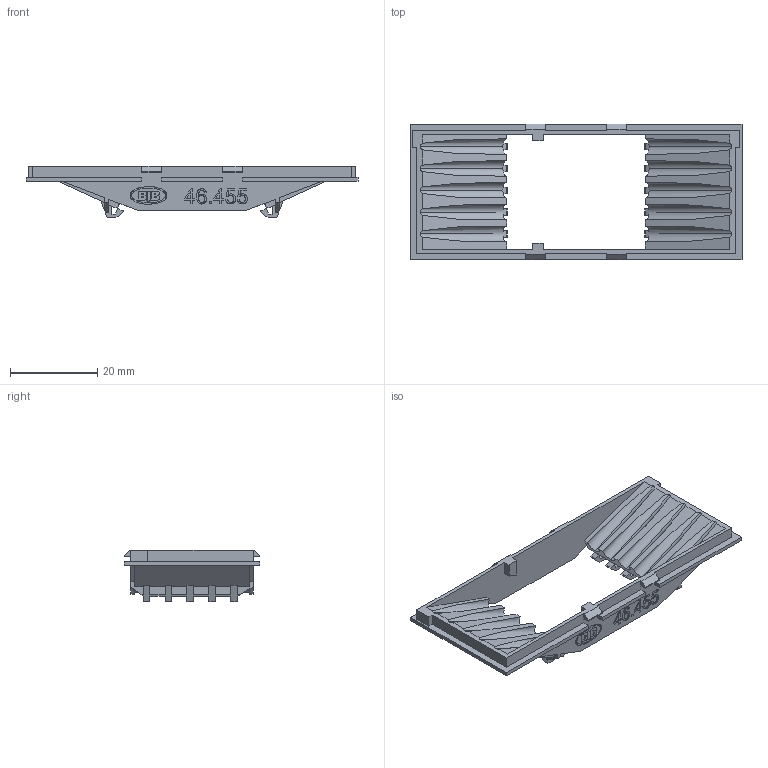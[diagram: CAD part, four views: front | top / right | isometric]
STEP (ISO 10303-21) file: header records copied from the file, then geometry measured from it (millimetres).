
FILE_DESCRIPTION(('CAx-IF Rec.Pracs.---Model Styling and Organization---1.2---2011-12-15','CAx-IF Rec.Pracs.---Geometric and Assembly Validation Properties---4.1---2014-06-16','CAx-IF Rec.Pracs.---PMI Polyline Presentation---2.0---2013-05-24'),'2;1');
FILE_NAME('00TYQ07Y09.stp','2020-10-30T12:25:16+01:00',(''),(''),'STEP Interface 4.3 by CT CoreTechnologie','3D_Evolution4.3 by CT CoreTechnologie','');
FILE_SCHEMA(('AP203_CONFIGURATION_CONTROLLED_3D_DESIGN_OF_MECHANICAL_PARTS_AND_ASSEMBLIES_MIM_LF'));
Length unit declared in the file: millimetre
Products named in the file (1): 00TYQ07Y09
Bounding box: 76 x 31 x 11.87 mm (x, y, z)
Volume: 3447 mm3; surface area: 6348.8 mm2
Topology: 1 solids, 1 shells, 424 faces, 1202 edges, 799 vertices
Faces by surface type: plane 357, cylinder 43, bspline 24
Entity records: 36755 total; most frequent: CARTESIAN_POINT 4631, PROPERTY_DEFINITION 3084, ORIENTED_EDGE 2404, DIRECTION 2022, SHAPE_REPRESENTATION 1543, SHAPE_DEFINITION_REPRESENTATION 1543, INTEGER_REPRESENTATION_ITEM 1542, REPRESENTATION 1542
